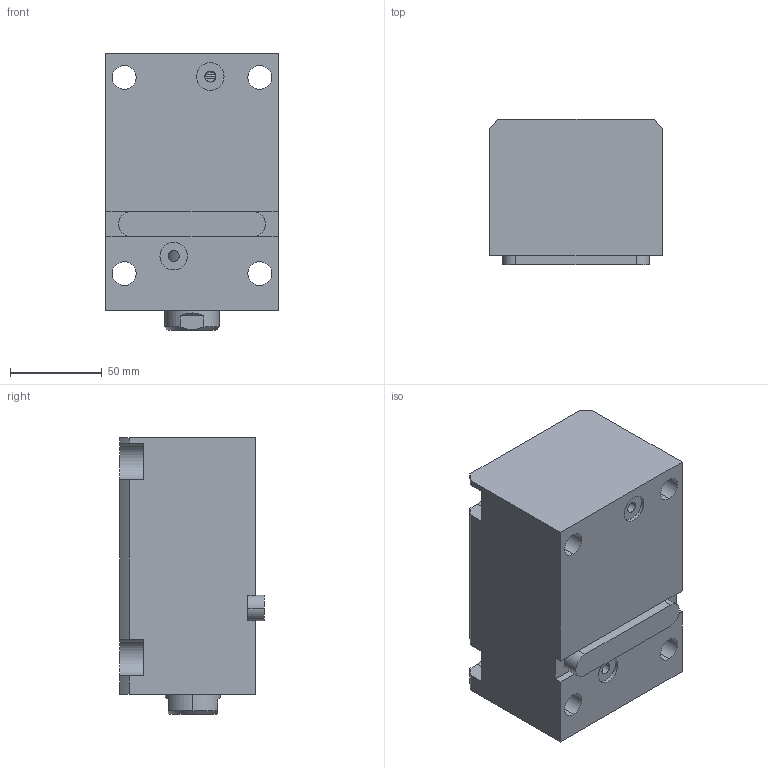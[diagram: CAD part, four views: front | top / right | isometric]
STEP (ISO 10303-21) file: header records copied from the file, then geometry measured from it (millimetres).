
FILE_DESCRIPTION (( 'STEP AP203' ), '1' );
FILE_NAME ('CHTB-LAM50-80N.STEP', '2018-05-23T11:12:39', ( '' ), ( '' ), 'SwSTEP 2.0', 'SolidWorks 2015', '' );
FILE_SCHEMA (( 'CONFIG_CONTROL_DESIGN' ));
Length unit declared in the file: millimetre
Products named in the file (4): 掛极LAM50-80N; CHTM-SDMA50QG; 活塞杆LAM50-80N; CHTB-LAM50-80N
Assembly tree (3 placements, depth 2):
  CHTB-LAM50-80N
    掛极LAM50-80N
    活塞杆LAM50-80N
    CHTM-SDMA50QG
Bounding box: 94 x 79 x 151 mm (x, y, z)
Volume: 818007.1 mm3; surface area: 129678.7 mm2
Topology: 3 solids, 3 shells, 192 faces, 524 edges, 347 vertices
Faces by surface type: cylinder 96, plane 51, torus 16, cone 15, bspline 14
Entity records: 11011 total; most frequent: CARTESIAN_POINT 5956, ORIENTED_EDGE 1036, DIRECTION 908, EDGE_CURVE 518, AXIS2_PLACEMENT_3D 356, VERTEX_POINT 347, EDGE_LOOP 221, VECTOR 196
